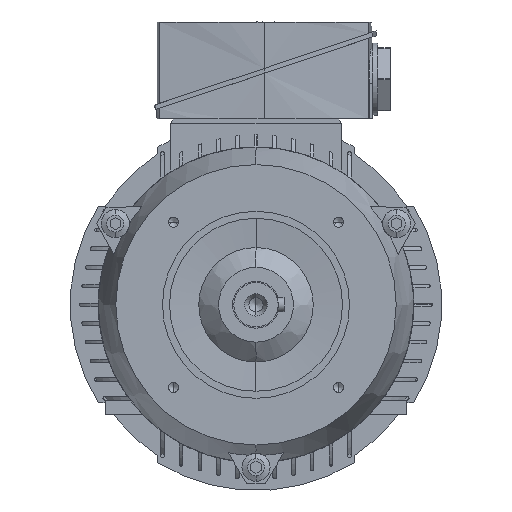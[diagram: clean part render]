
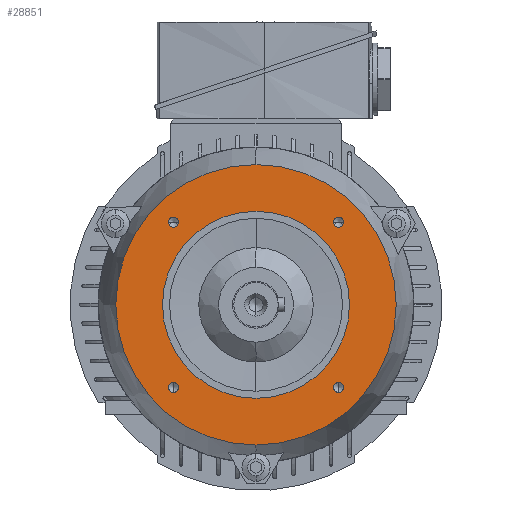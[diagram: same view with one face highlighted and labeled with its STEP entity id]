
A CAD part, left-side view. The second image highlights one B-rep face of the part: STEP entity #28851.
In plain terms, the highlighted planar face has unit normal (-1, 0, 0).
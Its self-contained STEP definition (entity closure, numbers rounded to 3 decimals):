
#3 = VERTEX_POINT ( 'NONE', #580 ) ;
#119 = CARTESIAN_POINT ( 'NONE',  ( -27., 35.355, 33.205 ) ) ;
#483 = DIRECTION ( 'NONE',  ( 0., 0., -1. ) ) ;
#573 = CARTESIAN_POINT ( 'NONE',  ( -27., 35.355, -35.355 ) ) ;
#580 = CARTESIAN_POINT ( 'NONE',  ( -27., 35.355, -33.205 ) ) ;
#993 = AXIS2_PLACEMENT_3D ( 'NONE', #16084, #2459, #18375 ) ;
#1495 = EDGE_LOOP ( 'NONE', ( #4071, #8228 ) ) ;
#1714 = DIRECTION ( 'NONE',  ( 0., 0., -1. ) ) ;
#1751 = DIRECTION ( 'NONE',  ( 1., 0., 0. ) ) ;
#1970 = EDGE_LOOP ( 'NONE', ( #24429, #24714 ) ) ;
#2249 = EDGE_LOOP ( 'NONE', ( #21943, #24399 ) ) ;
#2440 = EDGE_LOOP ( 'NONE', ( #10507, #3548 ) ) ;
#2459 = DIRECTION ( 'NONE',  ( 1., 0., 0. ) ) ;
#2648 = CARTESIAN_POINT ( 'NONE',  ( -27., 0., 0. ) ) ;
#3339 = DIRECTION ( 'NONE',  ( 1., 0., 0. ) ) ;
#3548 = ORIENTED_EDGE ( 'NONE', *, *, #9651, .T. ) ;
#3802 = EDGE_LOOP ( 'NONE', ( #22469, #9856 ) ) ;
#4047 = EDGE_LOOP ( 'NONE', ( #29548, #27225 ) ) ;
#4071 = ORIENTED_EDGE ( 'NONE', *, *, #13502, .T. ) ;
#5012 = AXIS2_PLACEMENT_3D ( 'NONE', #13280, #13271, #13249 ) ;
#5467 = AXIS2_PLACEMENT_3D ( 'NONE', #27795, #27719, #27688 ) ;
#5958 = AXIS2_PLACEMENT_3D ( 'NONE', #15120, #15064, #15033 ) ;
#6036 = CARTESIAN_POINT ( 'NONE',  ( -27., -35.355, -37.505 ) ) ;
#6467 = VERTEX_POINT ( 'NONE', #21920 ) ;
#6499 = CIRCLE ( 'NONE', #5958, 2.15 ) ;
#6880 = DIRECTION ( 'NONE',  ( 0., 0., -1. ) ) ;
#6950 = DIRECTION ( 'NONE',  ( 1., 0., 0. ) ) ;
#6978 = CARTESIAN_POINT ( 'NONE',  ( -27., 35.355, -35.355 ) ) ;
#7046 = EDGE_CURVE ( 'NONE', #25849, #22531, #23631, .T. ) ;
#7494 = VERTEX_POINT ( 'NONE', #16582 ) ;
#8228 = ORIENTED_EDGE ( 'NONE', *, *, #11378, .T. ) ;
#8693 = CIRCLE ( 'NONE', #17571, 2.15 ) ;
#9276 = CIRCLE ( 'NONE', #5012, 40. ) ;
#9465 = CARTESIAN_POINT ( 'NONE',  ( -27., 35.355, 37.505 ) ) ;
#9483 = CIRCLE ( 'NONE', #10066, 60. ) ;
#9520 = EDGE_CURVE ( 'NONE', #23004, #13764, #6499, .T. ) ;
#9651 = EDGE_CURVE ( 'NONE', #22531, #25849, #9276, .T. ) ;
#9856 = ORIENTED_EDGE ( 'NONE', *, *, #10956, .T. ) ;
#10066 = AXIS2_PLACEMENT_3D ( 'NONE', #2648, #1751, #1714 ) ;
#10507 = ORIENTED_EDGE ( 'NONE', *, *, #7046, .T. ) ;
#10839 = AXIS2_PLACEMENT_3D ( 'NONE', #15201, #15167, #15144 ) ;
#10956 = EDGE_CURVE ( 'NONE', #6467, #22668, #26199, .T. ) ;
#11378 = EDGE_CURVE ( 'NONE', #3, #15127, #22935, .T. ) ;
#11765 = EDGE_CURVE ( 'NONE', #7494, #19359, #19970, .T. ) ;
#12119 = DIRECTION ( 'NONE',  ( -1., 0., 0. ) ) ;
#13249 = DIRECTION ( 'NONE',  ( 0., 0., 1. ) ) ;
#13271 = DIRECTION ( 'NONE',  ( 1., 0., 0. ) ) ;
#13280 = CARTESIAN_POINT ( 'NONE',  ( -27., 0., 0. ) ) ;
#13323 = CARTESIAN_POINT ( 'NONE',  ( -27., -35.355, 33.205 ) ) ;
#13502 = EDGE_CURVE ( 'NONE', #15127, #3, #8693, .T. ) ;
#13764 = VERTEX_POINT ( 'NONE', #119 ) ;
#14626 = DIRECTION ( 'NONE',  ( 0., 0., -1. ) ) ;
#14688 = DIRECTION ( 'NONE',  ( 1., 0., 0. ) ) ;
#14757 = CARTESIAN_POINT ( 'NONE',  ( -27., -35.355, -35.355 ) ) ;
#15033 = DIRECTION ( 'NONE',  ( 0., 0., -1. ) ) ;
#15064 = DIRECTION ( 'NONE',  ( 1., 0., 0. ) ) ;
#15120 = CARTESIAN_POINT ( 'NONE',  ( -27., 35.355, 35.355 ) ) ;
#15127 = VERTEX_POINT ( 'NONE', #23251 ) ;
#15144 = DIRECTION ( 'NONE',  ( 0., 0., -1. ) ) ;
#15167 = DIRECTION ( 'NONE',  ( 1., 0., 0. ) ) ;
#15201 = CARTESIAN_POINT ( 'NONE',  ( -27., -35.355, 35.355 ) ) ;
#15231 = CARTESIAN_POINT ( 'NONE',  ( -27., 0., -40. ) ) ;
#15284 = CIRCLE ( 'NONE', #10839, 2.15 ) ;
#15625 = EDGE_CURVE ( 'NONE', #22368, #16035, #9483, .T. ) ;
#16035 = VERTEX_POINT ( 'NONE', #19401 ) ;
#16084 = CARTESIAN_POINT ( 'NONE',  ( -27., 0., 0. ) ) ;
#16511 = DIRECTION ( 'NONE',  ( 0., 0., -1. ) ) ;
#16582 = CARTESIAN_POINT ( 'NONE',  ( -27., -35.355, -33.205 ) ) ;
#16615 = DIRECTION ( 'NONE',  ( 1., 0., 0. ) ) ;
#16711 = CARTESIAN_POINT ( 'NONE',  ( -27., -35.355, -35.355 ) ) ;
#16755 = FACE_BOUND ( 'NONE', #3802, .T. ) ;
#16766 = CIRCLE ( 'NONE', #23658, 2.15 ) ;
#16783 = FACE_BOUND ( 'NONE', #2249, .T. ) ;
#16812 = FACE_OUTER_BOUND ( 'NONE', #4047, .T. ) ;
#16846 = FACE_BOUND ( 'NONE', #1495, .T. ) ;
#16874 = FACE_BOUND ( 'NONE', #1970, .T. ) ;
#16934 = FACE_BOUND ( 'NONE', #2440, .T. ) ;
#17124 = CARTESIAN_POINT ( 'NONE',  ( -27., 0., -60. ) ) ;
#17571 = AXIS2_PLACEMENT_3D ( 'NONE', #6978, #6950, #6880 ) ;
#18315 = DIRECTION ( 'NONE',  ( 0., 0., -1. ) ) ;
#18375 = DIRECTION ( 'NONE',  ( 0., 0., -1. ) ) ;
#18408 = DIRECTION ( 'NONE',  ( 1., 0., 0. ) ) ;
#18503 = CARTESIAN_POINT ( 'NONE',  ( -27., -35.355, 35.355 ) ) ;
#19359 = VERTEX_POINT ( 'NONE', #6036 ) ;
#19401 = CARTESIAN_POINT ( 'NONE',  ( -27., 0., 60. ) ) ;
#19711 = EDGE_CURVE ( 'NONE', #13764, #23004, #24502, .T. ) ;
#19970 = CIRCLE ( 'NONE', #23195, 2.15 ) ;
#20068 = DIRECTION ( 'NONE',  ( 0., 0., -1. ) ) ;
#20175 = CARTESIAN_POINT ( 'NONE',  ( -27., 35.355, 35.355 ) ) ;
#20270 = DIRECTION ( 'NONE',  ( 1., 0., 0. ) ) ;
#20419 = EDGE_CURVE ( 'NONE', #19359, #7494, #16766, .T. ) ;
#21005 = PLANE ( 'NONE',  #22132 ) ;
#21920 = CARTESIAN_POINT ( 'NONE',  ( -27., -35.355, 37.505 ) ) ;
#21943 = ORIENTED_EDGE ( 'NONE', *, *, #20419, .T. ) ;
#22132 = AXIS2_PLACEMENT_3D ( 'NONE', #25675, #12119, #27995 ) ;
#22368 = VERTEX_POINT ( 'NONE', #17124 ) ;
#22469 = ORIENTED_EDGE ( 'NONE', *, *, #22483, .T. ) ;
#22483 = EDGE_CURVE ( 'NONE', #22668, #6467, #15284, .T. ) ;
#22531 = VERTEX_POINT ( 'NONE', #15231 ) ;
#22668 = VERTEX_POINT ( 'NONE', #13323 ) ;
#22935 = CIRCLE ( 'NONE', #24725, 2.15 ) ;
#23004 = VERTEX_POINT ( 'NONE', #9465 ) ;
#23195 = AXIS2_PLACEMENT_3D ( 'NONE', #16711, #16615, #16511 ) ;
#23251 = CARTESIAN_POINT ( 'NONE',  ( -27., 35.355, -37.505 ) ) ;
#23547 = CIRCLE ( 'NONE', #993, 60. ) ;
#23631 = CIRCLE ( 'NONE', #5467, 40. ) ;
#23658 = AXIS2_PLACEMENT_3D ( 'NONE', #14757, #14688, #14626 ) ;
#24390 = EDGE_CURVE ( 'NONE', #16035, #22368, #23547, .T. ) ;
#24399 = ORIENTED_EDGE ( 'NONE', *, *, #11765, .T. ) ;
#24429 = ORIENTED_EDGE ( 'NONE', *, *, #19711, .T. ) ;
#24502 = CIRCLE ( 'NONE', #28683, 2.15 ) ;
#24714 = ORIENTED_EDGE ( 'NONE', *, *, #9520, .T. ) ;
#24725 = AXIS2_PLACEMENT_3D ( 'NONE', #573, #3339, #483 ) ;
#25675 = CARTESIAN_POINT ( 'NONE',  ( -27., 0., 50. ) ) ;
#25849 = VERTEX_POINT ( 'NONE', #28398 ) ;
#26199 = CIRCLE ( 'NONE', #26385, 2.15 ) ;
#26385 = AXIS2_PLACEMENT_3D ( 'NONE', #18503, #18408, #18315 ) ;
#27225 = ORIENTED_EDGE ( 'NONE', *, *, #24390, .F. ) ;
#27688 = DIRECTION ( 'NONE',  ( 0., 0., 1. ) ) ;
#27719 = DIRECTION ( 'NONE',  ( 1., 0., 0. ) ) ;
#27795 = CARTESIAN_POINT ( 'NONE',  ( -27., 0., 0. ) ) ;
#27995 = DIRECTION ( 'NONE',  ( 0., 0., 1. ) ) ;
#28398 = CARTESIAN_POINT ( 'NONE',  ( -27., 0., 40. ) ) ;
#28683 = AXIS2_PLACEMENT_3D ( 'NONE', #20175, #20270, #20068 ) ;
#28851 = ADVANCED_FACE ( 'NONE', ( #16934, #16812, #16874, #16846, #16783, #16755 ), #21005, .T. ) ;
#29548 = ORIENTED_EDGE ( 'NONE', *, *, #15625, .F. ) ;
